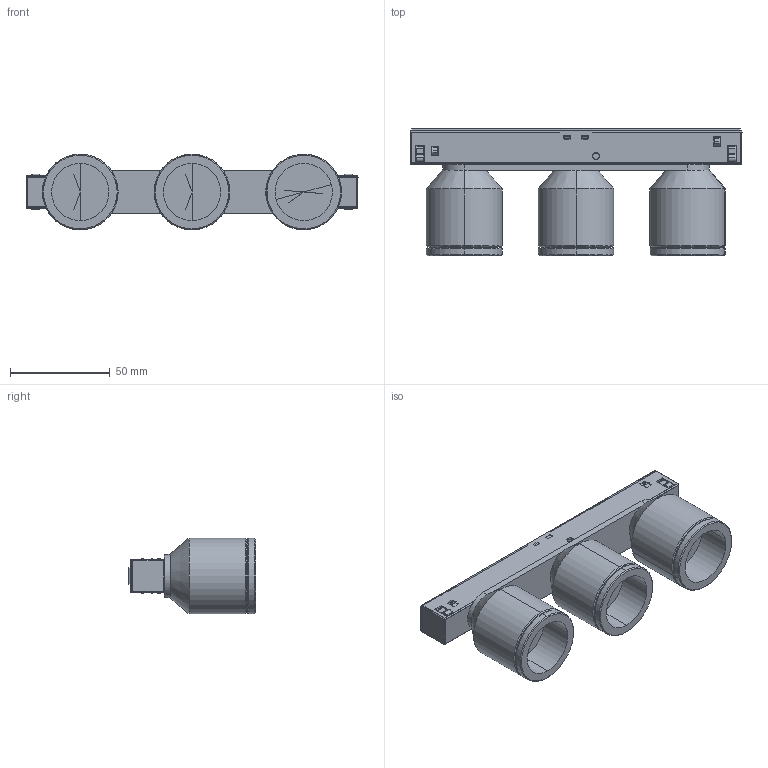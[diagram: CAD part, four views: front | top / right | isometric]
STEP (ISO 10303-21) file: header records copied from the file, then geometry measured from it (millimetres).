
FILE_DESCRIPTION (( 'STEP AP214' ), '1' );
FILE_NAME ('Spot Triple Fixed CAD.STEP', '2019-01-11T03:53:35', ( '' ), ( '' ), 'SwSTEP 2.0', 'SolidWorks 2017', '' );
FILE_SCHEMA (( 'AUTOMOTIVE_DESIGN' ));
Length unit declared in the file: millimetre
Products named in the file (4): Part2^Spot Triple Fixed CAD; Adaptor 9519-166; 3x1 Array Frame; Spot Triple Fixed CAD
Assembly tree (5 placements, depth 2):
  Spot Triple Fixed CAD
    Adaptor 9519-166
    3x1 Array Frame
    Part2^Spot Triple Fixed CAD  x3
Bounding box: 166.41 x 63.89 x 38 mm (x, y, z)
Volume: 127327.7 mm3; surface area: 61517.1 mm2
Topology: 8 solids, 8 shells, 1817 faces, 5000 edges, 3176 vertices
Faces by surface type: plane 1045, cylinder 442, cone 202, bspline 127, torus 1
Entity records: 62883 total; most frequent: CARTESIAN_POINT 18620, ORIENTED_EDGE 9746, DIRECTION 7734, EDGE_CURVE 4873, VERTEX_POINT 3126, LINE 3114, VECTOR 3114, AXIS2_PLACEMENT_3D 2310
